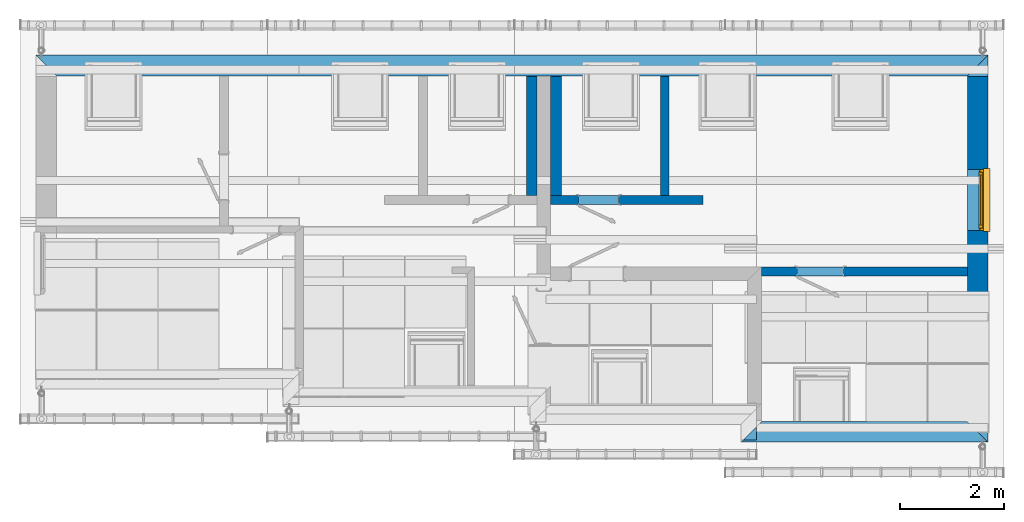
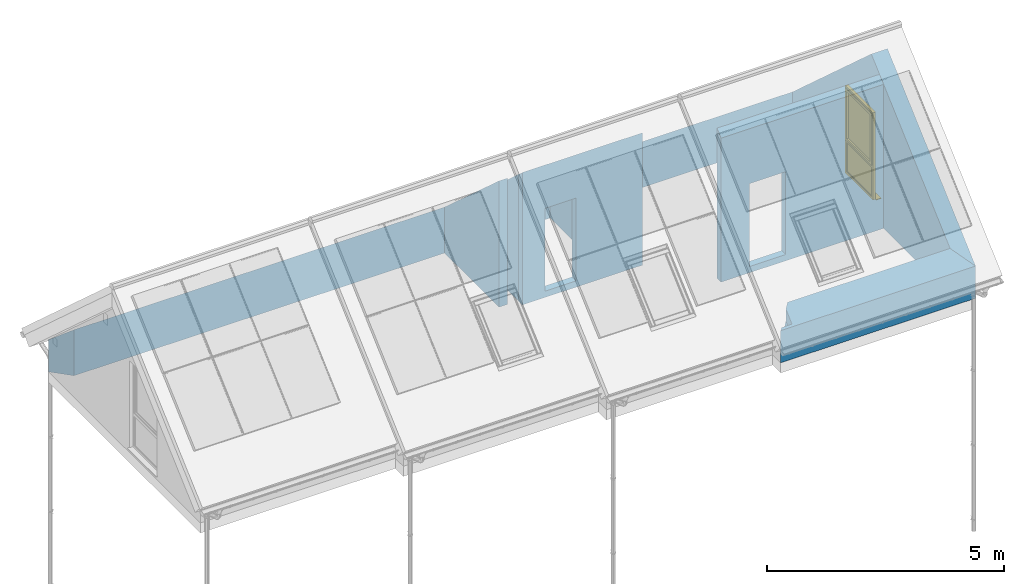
# One storey, part 12 of 43: 8 walls, 1 window, 3 openings.
"""IFC2X3 building model written with IfcOpenShell, lengths in millimetres."""

from ifc_helpers import new_model, si_unit, frame, origin_with_axes, place, context, project, spatial, faceted_brep, material, layer, layer_set, layer_usage, type_object, element, fill, save


model = new_model("IFC2X3")

# Units and contexts
model_context = context("Model", 3, world=origin_with_axes())
ifc_project = project(units=[si_unit("LENGTHUNIT", "METRE", prefix="MILLI")], contexts=[model_context])

# Site, building, storey
site_placement = place(None, origin_with_axes())
site = spatial("IfcSite", under=ifc_project, at=site_placement, Name="Site", CompositionType="ELEMENT")
building_placement = place(site_placement, origin_with_axes())
building = spatial("IfcBuilding", under=site, at=building_placement, Name="?", CompositionType="ELEMENT")
storey_placement = place(building_placement, frame((0.0, 0.0, 5938.0), z_axis=(0.0, 0.0, 1.0), x_axis=(1.0, 0.0, 0.0)))
storey = spatial("IfcBuildingStorey", under=building, at=storey_placement, Name="Dachgeschoß", CompositionType="ELEMENT", Elevation=5938.0)

# Wall
ifc_material_1 = material(Name="Material_AW")
ifc_layer_1 = layer(ifc_material_1, 395.0, ventilated=False)
ifc_layer_set_1 = layer_set([ifc_layer_1], Name="MaterialLayerSet_AW")
ifc_layer_usage_1 = layer_usage(ifc_layer_set_1, "AXIS2", "NEGATIVE", 197.5)
wall_1_placement = place(storey_placement, frame((197.5, -197.5, 0.0), z_axis=(0.0, 0.0, 1.0), x_axis=(1.0, 0.0, 0.0)))
element("IfcWall", 1, at=wall_1_placement, inside=storey, material=ifc_layer_usage_1, Name="AW-21", context=model_context, shape_type="Brep", body=[
    faceted_brep([(17707.5008600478, -197.5, 0.0), (17707.5008600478, -197.5, 1185.20998989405), (13052.5, -197.5, 1185.20998989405), (9002.5, -197.5, 1185.20998989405), (4252.5, -197.5, 1185.20998989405), (197.5, -197.5, 1185.20998989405), (197.5, -197.5, 0.0), (18102.5001275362, 197.500000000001, 0.0), (18102.5001275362, 197.500000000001, 829.550315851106), (17707.5008600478, -197.5, 1185.20998989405), (17707.5008600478, -197.5, 0.0), (-197.500233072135, 197.5, 0.0), (-197.500233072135, 197.5, 829.550315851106), (4252.5, 197.5, 829.550315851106), (9002.5, 197.5, 829.550315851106), (13052.5, 197.5, 829.550315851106), (18102.5001275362, 197.5, 829.550315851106), (18102.5001275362, 197.5, 0.0), (197.5, -197.5, 0.0), (197.5, -197.5, 1185.20998989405), (-197.500233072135, 197.5, 829.550315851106), (-197.500233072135, 197.5, 0.0), (197.5, -197.5, 0.0), (-197.500233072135, 197.5, 0.0), (18102.5001275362, 197.5, 0.0), (17707.5008600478, -197.5, 0.0), (13052.5, -197.5, 1185.20998989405), (17707.5008600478, -197.5, 1185.20998989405), (18102.5001275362, 197.5, 829.550315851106), (13052.5, 197.5, 829.550315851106), (9002.5, -197.5, 1185.20998989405), (13052.5, -197.5, 1185.20998989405), (13052.5, 197.5, 829.550315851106), (9002.5, 197.5, 829.550315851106), (4252.5, -197.5, 1185.20998989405), (9002.5, -197.5, 1185.20998989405), (9002.5, 197.5, 829.550315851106), (4252.5, 197.5, 829.550315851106), (-197.500233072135, 197.5, 829.550315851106), (197.5, -197.5, 1185.20998989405), (4252.5, -197.5, 1185.20998989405), (4252.5, 197.5, 829.550315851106)], [[[0, 1, 2, 3, 4, 5, 6]], [[7, 8, 9, 10]], [[11, 12, 13, 14, 15, 16, 17]], [[18, 19, 20, 21]], [[22, 23, 24, 25]], [[26, 27, 28, 29]], [[30, 31, 32, 33]], [[34, 35, 36, 37]], [[38, 39, 40, 41]]]),
])

# Wall, opening, window
wall_2_placement = place(storey_placement, frame((18102.5, -197.5, 0.0), z_axis=(0.0, 0.0, 1.0), x_axis=(0.0, -1.0, 0.0)))
wall_2 = element("IfcWall", 2, at=wall_2_placement, inside=storey, material=ifc_layer_usage_1, Name="AW-22", context=model_context, shape_type="Brep", body=[
    faceted_brep([(6847.49912937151, -197.5, 0.0), (6847.49912937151, -197.5, 1185.21045300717), (3522.50002352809, -197.5, 4179.05373953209), (197.5, -197.5, 1185.21013352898), (197.5, -197.5, 0.0), (7242.50009495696, 197.5, 0.0), (7242.50009495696, 197.5, 829.550151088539), (6847.49912937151, -197.5, 1185.21045300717), (6847.49912937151, -197.5, 0.0), (-197.500732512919, 197.5, 0.0), (-197.500732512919, 197.5, 829.549843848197), (3522.50016670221, 197.5, 4179.05385215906), (7242.50009495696, 197.5, 829.550151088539), (7242.50009495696, 197.5, 0.0), (197.5, -197.5, 0.0), (197.5, -197.5, 1185.21013352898), (-197.500732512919, 197.5, 829.549843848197), (-197.500732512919, 197.5, 0.0), (197.5, -197.5, 0.0), (-197.500732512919, 197.5, 0.0), (7242.50009495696, 197.5, 0.0), (6847.49912937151, -197.5, 0.0), (3522.50016670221, 197.5, 4179.05385215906), (-197.50073251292, 197.5, 829.549843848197), (197.5, -197.5, 1185.21013352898), (3522.50002352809, -197.5, 4179.05373953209), (3522.50002352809, -197.5, 4179.05373953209), (6847.49912937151, -197.5, 1185.21045300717), (7242.50009495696, 197.5, 829.550151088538), (3522.50016670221, 197.5, 4179.05385215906)], [[[0, 1, 2, 3, 4]], [[5, 6, 7, 8]], [[9, 10, 11, 12, 13]], [[14, 15, 16, 17]], [[18, 19, 20, 21]], [[22, 23, 24, 25]], [[26, 27, 28, 29]]]),
])
opening_1_placement = place(wall_2_placement, frame((2002.5, 0.0, 116.0), z_axis=(0.0, 0.0, 1.0), x_axis=(1.0, 0.0, 0.0)))
opening_1 = element("IfcOpeningElement", 3, at=opening_1_placement, cuts=wall_2, Name="AW-22|FE20", context=model_context, shape_type="Brep", body=[
    faceted_brep([(0.0, 207.5, 0.0), (0.0, 207.5, 2244.0), (1170.0, 207.5, 2244.0), (1170.0, 207.5, 0.0), (0.0, -207.5, 0.0), (0.0, -207.5, 2244.0), (0.0, 207.5, 2244.0), (0.0, 207.5, 0.0), (1170.0, -207.5, 0.0), (0.0, -207.5, 0.0), (0.0, 207.5, 0.0), (1170.0, 207.5, 0.0), (1170.0, -207.5, 2244.0), (1170.0, -207.5, 0.0), (1170.0, 207.5, 0.0), (1170.0, 207.5, 2244.0), (0.0, -207.5, 2244.0), (1170.0, -207.5, 2244.0), (1170.0, 207.5, 2244.0), (0.0, 207.5, 2244.0), (0.0, -207.5, 0.0), (1170.0, -207.5, 0.0), (1170.0, -207.5, 2244.0), (0.0, -207.5, 2244.0)], [[[0, 1, 2, 3]], [[4, 5, 6, 7]], [[8, 9, 10, 11]], [[12, 13, 14, 15]], [[16, 17, 18, 19]], [[20, 21, 22, 23]]]),
])
window_style = type_object("IfcWindowStyle", Name="FE20", ConstructionType="NOTDEFINED", OperationType="DOUBLE_PANEL_HORIZONTAL", ParameterTakesPrecedence=True, Sizeable=False)
window_placement = place(opening_1_placement, frame((1170.0, 77.5, 0.0), z_axis=(0.0, 0.0, 1.0), x_axis=(-1.0, 0.0, 0.0)))
window = element("IfcWindow", 4, at=window_placement, inside=storey, type_object=window_style, Name="FE20", OverallHeight=2244.0, OverallWidth=1170.0, context=model_context, shape_type="Brep", body=[
    faceted_brep([(0.0, -36.0, 0.0), (1170.0, -36.0, 0.0), (1155.0, -36.0, 15.0), (15.0, -36.0, 15.0), (14.999755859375, 36.0, 15.0), (1154.99975585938, 36.0, 15.0), (1169.99975585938, 36.0, 0.0), (-0.000244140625, 36.0, 0.0), (0.0, 36.0, 0.0), (1170.0, 36.0, 0.0), (1170.0, -36.0, 0.0), (0.0, -36.0, 0.0), (1170.0, -36.0, 0.0), (1170.0, -36.0, 2244.0), (1155.0, -36.0, 2229.0), (1155.0, -36.0, 15.0), (1155.0, 36.0, 15.0), (1155.0, 36.0, 2229.0), (1170.0, 36.0, 2244.0), (1170.0, 36.0, 0.0), (1170.0, 36.0, 0.0), (1170.0, 36.0, 2244.0), (1170.0, -36.0, 2244.0), (1170.0, -36.0, 0.0), (1170.0, -36.0, 2244.0), (0.0, -36.0, 2244.0), (15.0, -36.0, 2229.0), (1155.0, -36.0, 2229.0), (1154.99951171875, 36.0, 2229.0), (14.99951171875, 36.0, 2229.0), (-0.00048828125, 36.0, 2244.0), (1169.99951171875, 36.0, 2244.0), (1170.0, 36.0, 2244.0), (0.0, 36.0, 2244.0), (0.0, -36.0, 2244.0), (1170.0, -36.0, 2244.0), (0.0, -36.0, 2244.0), (0.0, -36.0, 0.0), (15.0, -36.0, 15.0), (15.0, -36.0, 2229.0), (15.0, 36.0, 2229.0), (15.0, 36.0, 15.0), (0.0, 36.0, 0.0), (0.0, 36.0, 2244.0), (0.0, 36.0, 2244.0), (0.0, 36.0, 0.0), (0.0, -36.0, 0.0), (0.0, -36.0, 2244.0), (1155.0, 36.0, 855.0), (1117.0, 36.0, 817.0), (53.0, 36.0, 817.0), (15.0, 36.0, 855.0), (43.0, 36.0, 883.0), (1127.0, 36.0, 883.0), (1127.0, 36.0, 883.0), (43.0, 36.0, 883.0), (43.0, -21.0, 883.0), (1127.0, -21.0, 883.0), (1127.0, -21.0, 883.0), (43.0, -21.0, 883.0), (60.0, -21.0, 900.0), (1110.0, -21.0, 900.0), (1110.0, -21.0, 900.0), (60.0, -21.0, 900.0), (60.0, -25.0, 900.0), (1110.0, -25.0, 900.0), (1110.0, -24.9999999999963, 900.000000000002), (59.9999999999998, -24.9999999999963, 900.000000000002), (52.9999999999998, -36.001952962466, 892.999023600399), (1117.0, -36.001952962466, 892.999023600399), (1117.0, -36.0, 893.0), (53.0, -36.0, 893.0), (15.0, -36.0, 855.0), (53.0, -36.0, 817.0), (1117.0, -36.0, 817.0), (1155.0, -36.0, 855.0), (52.999755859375, 36.0, 817.000000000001), (1116.99975585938, 36.0, 817.000000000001), (1109.99975585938, 24.998047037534, 809.9990236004), (59.999755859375, 24.998047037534, 809.9990236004), (60.0, 25.0, 810.0), (1110.0, 25.0, 810.0), (1110.0, 12.0, 810.0), (60.0, 12.0, 810.0), (60.0, -12.0, 810.0), (1110.0, -12.0, 810.0), (1110.0, -25.0, 810.0), (60.0, -25.0, 810.0), (60.0, 12.0, 810.0), (1110.0, 12.0, 810.0), (1127.0, 12.0, 827.0), (43.0, 12.0, 827.0), (42.999755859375, 12.0, 827.0), (1126.99975585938, 12.0, 827.0), (1126.99975585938, -12.0, 827.0), (42.999755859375, -12.0, 827.0), (42.999755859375, -12.0, 827.0), (1126.99975585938, -12.0, 827.0), (1109.99975585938, -12.0, 810.0), (59.999755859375, -12.0, 810.0), (60.0, -24.9999999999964, 809.999999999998), (1110.0, -24.9999999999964, 809.999999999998), (1117.0, -36.0019529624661, 817.000976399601), (53.0, -36.0019529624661, 817.000976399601), (1155.0, 36.0, 2229.0), (1155.0, 36.0, 855.0), (1127.0, 36.0, 883.0), (1127.0, 36.0, 2201.0), (1127.0, 36.0, 2201.0), (1127.0, 36.0, 883.0), (1127.0, -21.0, 883.0), (1127.0, -21.0, 2201.0), (1127.0, -21.0, 2201.0), (1127.0, -21.0, 883.0), (1110.0, -21.0, 900.0), (1110.0, -21.0, 2184.0), (1110.0, -21.0, 2184.0), (1110.0, -21.0, 900.0), (1110.0, -25.0, 900.0), (1110.0, -25.0, 2184.0), (1110.0, -25.0, 2184.0), (1110.0, -25.0, 900.0), (1117.00122087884, -36.0019531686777, 893.0), (1117.00122087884, -36.0019531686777, 2191.0), (1117.0, -36.0, 2191.0), (1117.0, -36.0, 893.0), (1155.0, -36.0, 855.0), (1155.0, -36.0, 2229.0), (15.0, 36.0, 2229.0), (1155.0, 36.0, 2229.0), (1127.0, 36.0, 2201.0), (43.0, 36.0, 2201.0), (42.999755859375, 36.0, 2201.0), (1126.99975585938, 36.0, 2201.0), (1126.99975585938, -21.0, 2201.0), (42.999755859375, -21.0, 2201.0), (42.999755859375, -21.0, 2201.0), (1126.99975585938, -21.0, 2201.0), (1109.99975585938, -21.0, 2184.0), (59.999755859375, -21.0, 2184.0), (60.0, -21.0, 2184.0), (1110.0, -21.0, 2184.0), (1110.0, -25.0, 2184.0), (60.0, -25.0, 2184.0), (60.0, -25.0, 2184.0), (1110.0, -25.0, 2184.0), (1117.0, -36.0019529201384, 2191.0000000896), (53.0, -36.0019529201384, 2191.0000000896), (52.999755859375, -36.0, 2191.0), (1116.99975585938, -36.0, 2191.0), (1154.99975585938, -36.0, 2229.0), (14.999755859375, -36.0, 2229.0), (15.0, 36.0, 855.0), (15.0, 36.0, 2229.0), (43.0, 36.0, 2201.0), (43.0, 36.0, 883.0), (43.0, 36.0, 883.0), (43.0, 36.0, 2201.0), (43.0, -21.0, 2201.0), (43.0, -21.0, 883.0), (43.0, -21.0, 883.0), (43.0, -21.0, 2201.0), (60.0, -21.0, 2184.0), (60.0, -21.0, 900.0), (60.0, -21.0, 899.99951171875), (60.0, -21.0, 2184.0), (60.0, -25.0, 2184.0), (60.0, -25.0, 899.99951171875), (60.0, -25.0, 899.999511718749), (60.0, -25.0, 2184.0), (52.9990236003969, -36.0019529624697, 2191.0), (52.9990236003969, -36.0019529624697, 892.999511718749), (53.0, -36.0, 892.99951171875), (53.0, -36.0, 2191.0), (15.0, -36.0, 2229.0), (15.0, -36.0, 854.99951171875), (1155.0, 36.0, 15.0), (15.0, 36.0, 15.0), (53.0, 36.0, 53.0), (1117.0, 36.0, 53.0), (1117.0, 36.0, 53.0), (53.0, 36.0, 53.0), (60.0, 24.9980470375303, 60.0009763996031), (1110.0, 24.9980470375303, 60.0009763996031), (1110.0, 25.0, 60.0), (60.0, 25.0, 60.0), (60.0, 12.0, 60.0), (1110.0, 12.0, 60.0), (1110.0, -12.0, 60.0), (60.0, -12.0, 60.0), (60.0, -25.0, 60.0), (1110.0, -25.0, 60.0), (1110.0, 12.0, 60.0), (60.0, 12.0, 60.0), (43.0, 12.0, 43.0), (1127.0, 12.0, 43.0), (1127.0, 12.0, 43.0), (43.0, 12.0, 43.0), (43.0, -12.0, 43.0), (1127.0, -12.0, 43.0), (1127.0, -12.0, 43.0), (43.0, -12.0, 43.0), (60.0, -12.0, 60.0), (1110.0, -12.0, 60.0), (1110.0, -25.0, 60.0), (60.0, -25.0, 60.0), (53.0, -36.0019529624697, 52.9990236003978), (1117.0, -36.0019529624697, 52.9990236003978), (1117.0, -36.0, 53.0), (53.0, -36.0, 53.0), (15.0, -36.0, 15.0), (1155.0, -36.0, 15.0), (1155.0, 36.0, 855.0), (1155.0, 36.0, 15.0), (1117.0, 36.0, 53.0), (1117.0, 36.0, 817.0), (1117.0, 36.0, 817.0), (1117.0, 36.0, 53.0), (1109.99853482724, 25.0000001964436, 60.0), (1109.99853482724, 25.0000001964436, 810.0), (1110.0, 25.0, 810.0), (1110.0, 25.0, 60.0), (1110.0, 12.0, 60.0), (1110.0, 12.0, 810.0), (1110.0, -12.0, 810.0), (1110.0, -12.0, 60.0), (1110.0, -25.0, 60.0), (1110.0, -25.0, 810.0), (1110.0, 12.0, 810.0), (1110.0, 12.0, 60.0), (1127.0, 12.0, 43.0), (1127.0, 12.0, 827.0), (1127.0, 12.0, 827.0), (1127.0, 12.0, 43.0), (1127.0, -12.0, 43.0), (1127.0, -12.0, 827.0), (1127.0, -12.0, 827.0), (1127.0, -12.0, 43.0), (1110.0, -12.0, 60.0), (1110.0, -12.0, 810.0), (1110.0, -25.0, 810.0), (1110.0, -25.0, 60.0), (1117.00146517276, -35.9999998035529, 53.0), (1117.00146517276, -35.9999998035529, 817.0), (1117.0, -36.0, 817.0), (1117.0, -36.0, 53.0), (1155.0, -36.0, 15.0), (1155.0, -36.0, 855.0), (15.0, 36.0, 15.0), (15.0, 36.0, 855.0), (53.0, 36.0, 817.0), (53.0, 36.0, 53.0), (53.0, 36.0, 53.0), (53.0, 36.0, 817.0), (60.0014651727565, 25.0000001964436, 810.0), (60.0014651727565, 25.0000001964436, 60.0), (60.0, 25.0, 60.0), (60.0, 25.0, 810.0), (60.0, 12.0, 810.0), (60.0, 12.0, 60.0), (60.0, -12.0, 60.0), (60.0, -12.0, 810.0), (60.0, -25.0, 810.0), (60.0, -25.0, 60.0), (60.0, 12.0, 60.0), (60.0, 12.0, 810.0), (43.0, 12.0, 827.0), (43.0, 12.0, 43.0), (43.0, 12.0, 43.00048828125), (43.0, 12.0, 827.00048828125), (43.0, -12.0, 827.00048828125), (43.0, -12.0, 43.00048828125), (43.0, -12.0, 43.00048828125), (43.0, -12.0, 827.00048828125), (60.0, -12.0, 810.00048828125), (60.0, -12.0, 60.00048828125), (60.0, -25.0, 60.0), (60.0, -25.0, 810.0), (52.9985348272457, -35.9999998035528, 817.0), (52.9985348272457, -35.9999998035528, 53.0), (53.0, -36.0, 53.0), (53.0, -36.0, 817.0), (15.0, -36.0, 855.0), (15.0, -36.0, 15.0), (1137.0, 52.0, 873.0), (33.0, 52.0, 873.0), (96.0, 52.0, 936.0), (1074.0, 52.0, 936.0), (1074.00024414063, 52.0, 936.0), (96.0002441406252, 52.0, 936.0), (110.000244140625, 19.9980470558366, 950.00048823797), (1060.00024414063, 19.9980470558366, 950.00048823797), (1060.0, 20.0, 950.0), (110.0, 20.0, 950.0), (103.0, 20.0, 943.0), (1067.0, 20.0, 943.0), (1066.99975585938, 20.0, 943.0), (102.999755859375, 20.0, 943.0), (102.999755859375, -4.0, 943.0), (1066.99975585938, -4.0, 943.0), (1066.99975585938, -4.0, 943.0), (102.999755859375, -4.0, 943.0), (109.999755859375, -4.0, 950.0), (1059.99975585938, -4.0, 950.0), (1060.0, -4.0, 949.999999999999), (110.0, -4.0, 949.999999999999), (102.0, -21.0019531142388, 941.999511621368), (1068.0, -21.0019531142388, 941.999511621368), (1068.0, -21.0, 942.0), (102.0, -21.0, 942.0), (51.0, -21.0, 891.0), (1119.0, -21.0, 891.0), (1119.00024414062, -21.0, 891.0), (51.000244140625, -21.0, 891.0), (51.000244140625, 36.0, 891.0), (1119.00024414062, 36.0, 891.0), (1119.00024414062, 36.0, 891.0), (51.000244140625, 36.0, 891.0), (33.000244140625, 36.0, 873.0), (1137.00024414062, 36.0, 873.0), (1137.0, 36.0, 873.0), (33.0, 36.0, 873.0), (33.0, 52.0, 873.0), (1137.0, 52.0, 873.0), (1137.0, 52.0, 2211.0), (1137.0, 52.0, 873.0), (1074.0, 52.0, 936.0), (1074.0, 52.0, 2148.0), (1074.0, 52.0, 2148.0), (1074.0, 52.0, 936.0), (1059.99975606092, 19.9980471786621, 950.0), (1059.99975606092, 19.9980471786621, 2134.0), (1060.0, 20.0, 2134.00048828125), (1060.0, 20.0, 950.00048828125), (1067.0, 20.0, 943.00048828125), (1067.0, 20.0, 2141.0), (1067.0, 20.0, 2141.0), (1067.0, 20.0, 943.0), (1067.0, -4.0, 943.0), (1067.0, -4.0, 2141.0), (1067.0, -4.0, 2141.0), (1067.0, -4.0, 943.0), (1060.0, -4.0, 950.0), (1060.0, -4.0, 2134.0), (1060.0, -4.0, 2134.00048828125), (1060.0, -4.0, 950.00048828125), (1068.00073255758, -21.0019530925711, 942.00048828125), (1068.00073255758, -21.0019530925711, 2142.0), (1068.0, -21.0, 2142.0), (1068.0, -21.0, 942.0), (1119.0000000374, -20.9980468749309, 891.0), (1119.0000000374, -20.9980468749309, 2193.0), (1119.0, -21.0, 2193.0), (1119.0, -21.0, 891.0), (1119.0, 36.0, 891.0), (1119.0, 36.0, 2193.0), (1119.0, 36.0, 2193.0), (1119.0, 36.0, 891.0), (1137.0, 36.0, 873.0), (1137.0, 36.0, 2211.0), (1137.0, 36.0, 2211.0), (1137.0, 36.0, 873.0), (1137.0, 52.0, 873.0), (1137.0, 52.0, 2211.0), (33.0, 52.0, 2211.0), (1137.0, 52.0, 2211.0), (1074.0, 52.0, 2148.0), (96.0, 52.0, 2148.0), (95.9997558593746, 52.0, 2148.0), (1073.99975585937, 52.0, 2148.0), (1059.99975585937, 19.998047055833, 2133.99951176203), (109.999755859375, 19.998047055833, 2133.99951176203), (109.999755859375, 20.0, 2134.0), (1059.99975585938, 20.0, 2134.0), (1066.99975585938, 20.0, 2141.0), (102.999755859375, 20.0, 2141.0), (102.999755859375, 20.0, 2141.0), (1066.99975585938, 20.0, 2141.0), (1066.99975585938, -4.0, 2141.0), (102.999755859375, -4.0, 2141.0), (102.999755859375, -4.0, 2141.0), (1066.99975585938, -4.0, 2141.0), (1059.99975585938, -4.0, 2134.0), (109.999755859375, -4.0, 2134.0), (109.999755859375, -4.0, 2134.0), (1059.99975585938, -4.0, 2134.0), (1067.99975585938, -21.0019530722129, 2142.00097673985), (101.999755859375, -21.0019530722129, 2142.00097673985), (102.0, -21.0, 2142.0), (1068.0, -21.0, 2142.0), (1119.0, -21.0, 2193.0), (51.0, -21.0, 2193.0), (50.999755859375, -21.0, 2193.0), (1118.99975585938, -21.0, 2193.0), (1118.99975585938, 36.0, 2193.0), (50.999755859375, 36.0, 2193.0), (50.999755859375, 36.0, 2193.0), (1118.99975585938, 36.0, 2193.0), (1136.99975585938, 36.0, 2211.0), (32.999755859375, 36.0, 2211.0), (33.0, 36.0, 2211.0), (1137.0, 36.0, 2211.0), (1137.0, 52.0, 2211.0), (33.0, 52.0, 2211.0), (33.0, 52.0, 872.99951171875), (33.0, 52.0, 2211.0), (96.0, 52.0, 2148.0), (96.0, 52.0, 935.99951171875), (96.0, 52.0, 936.0), (96.0, 52.0, 2148.0), (110.000243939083, 19.9980471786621, 2134.0), (110.000243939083, 19.9980471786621, 950.0), (110.0, 20.0, 949.99951171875), (110.0, 20.0, 2133.99951171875), (103.0, 20.0, 2141.0), (103.0, 20.0, 942.99951171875), (103.0, 20.0, 943.0), (103.0, 20.0, 2141.0), (103.0, -4.0, 2141.0), (103.0, -4.0, 943.0), (103.0, -4.0, 943.0), (103.0, -4.0, 2141.0), (110.0, -4.0, 2134.0), (110.0, -4.0, 950.0), (110.0, -4.00000000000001, 949.999511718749), (110.0, -4.00000000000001, 2133.99951171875), (101.999267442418, -21.0019530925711, 2142.0), (101.999267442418, -21.0019530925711, 941.999511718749), (102.0, -21.0, 942.0), (102.0, -21.0, 2142.0), (50.9999999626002, -20.9980468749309, 2193.0), (50.9999999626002, -20.9980468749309, 891.0), (51.0, -21.0, 891.0), (51.0, -21.0, 2193.0), (51.0, 36.0, 2193.0), (51.0, 36.0, 891.0), (51.0, 36.0, 891.0), (51.0, 36.0, 2193.0), (33.0, 36.0, 2211.0), (33.0, 36.0, 873.0), (33.0, 36.0, 872.99951171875), (33.0, 36.0, 2211.0), (33.0, 52.0, 2211.0), (33.0, 52.0, 872.99951171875), (110.0, 20.0, 950.0), (110.0, 20.0, 2134.0), (1060.0, 20.0, 2134.0), (1060.0, 20.0, 950.0), (110.0, -4.0, 950.0), (1060.0, -4.0, 950.0), (1060.0, -4.0, 2134.0), (110.0, -4.0, 2134.0), (60.0, 12.0, 60.0), (60.0, 12.0, 810.0), (1110.0, 12.0, 810.0), (1110.0, 12.0, 60.0), (60.0, -12.0, 60.0), (1110.0, -12.0, 60.0), (1110.0, -12.0, 810.0), (60.0, -12.0, 810.0), (-20.0, -36.0, 0.5), (-20.0, -160.0, 0.5), (1190.0, -160.0, 0.5), (1190.0, -36.0, 0.5), (-20.0, -36.0, -19.5), (-20.0, -36.0, 0.5), (1190.0, -36.0, 0.5), (1190.0, -36.0, -19.5), (-20.0, -160.0, -19.5), (-20.0, -36.0, -19.5), (1190.0, -36.0, -19.5), (1190.0, -160.0, -19.5), (-20.0, -160.0, 0.5), (-20.0, -160.0, -19.5), (1190.0, -160.0, -19.5), (1190.0, -160.0, 0.5), (-20.0, -160.0, -19.5), (-20.0, -160.0, 0.5), (-20.0, -36.0, 0.5), (-20.0, -36.0, -19.5), (1190.0, -160.0, 0.5), (1190.0, -160.0, -19.5), (1190.0, -36.0, -19.5), (1190.0, -36.0, 0.5)], [[[0, 1, 2, 3]], [[4, 5, 6, 7]], [[8, 9, 10, 11]], [[12, 13, 14, 15]], [[16, 17, 18, 19]], [[20, 21, 22, 23]], [[24, 25, 26, 27]], [[28, 29, 30, 31]], [[32, 33, 34, 35]], [[36, 37, 38, 39]], [[40, 41, 42, 43]], [[44, 45, 46, 47]], [[48, 49, 50, 51, 52, 53]], [[54, 55, 56, 57]], [[58, 59, 60, 61]], [[62, 63, 64, 65]], [[66, 67, 68, 69]], [[70, 71, 72, 73, 74, 75]], [[76, 77, 78, 79]], [[80, 81, 82, 83]], [[84, 85, 86, 87]], [[88, 89, 90, 91]], [[92, 93, 94, 95]], [[96, 97, 98, 99]], [[100, 101, 102, 103]], [[104, 105, 106, 107]], [[108, 109, 110, 111]], [[112, 113, 114, 115]], [[116, 117, 118, 119]], [[120, 121, 122, 123]], [[124, 125, 126, 127]], [[128, 129, 130, 131]], [[132, 133, 134, 135]], [[136, 137, 138, 139]], [[140, 141, 142, 143]], [[144, 145, 146, 147]], [[148, 149, 150, 151]], [[152, 153, 154, 155]], [[156, 157, 158, 159]], [[160, 161, 162, 163]], [[164, 165, 166, 167]], [[168, 169, 170, 171]], [[172, 173, 174, 175]], [[176, 177, 178, 179]], [[180, 181, 182, 183]], [[184, 185, 186, 187]], [[188, 189, 190, 191]], [[192, 193, 194, 195]], [[196, 197, 198, 199]], [[200, 201, 202, 203]], [[204, 205, 206, 207]], [[208, 209, 210, 211]], [[212, 213, 214, 215]], [[216, 217, 218, 219]], [[220, 221, 222, 223]], [[224, 225, 226, 227]], [[228, 229, 230, 231]], [[232, 233, 234, 235]], [[236, 237, 238, 239]], [[240, 241, 242, 243]], [[244, 245, 246, 247]], [[248, 249, 250, 251]], [[252, 253, 254, 255]], [[256, 257, 258, 259]], [[260, 261, 262, 263]], [[264, 265, 266, 267]], [[268, 269, 270, 271]], [[272, 273, 274, 275]], [[276, 277, 278, 279]], [[280, 281, 282, 283]], [[284, 285, 286, 287]], [[288, 289, 290, 291]], [[292, 293, 294, 295]], [[296, 297, 298, 299]], [[300, 301, 302, 303]], [[304, 305, 306, 307]], [[308, 309, 310, 311]], [[312, 313, 314, 315]], [[316, 317, 318, 319]], [[320, 321, 322, 323]], [[324, 325, 326, 327]], [[328, 329, 330, 331]], [[332, 333, 334, 335]], [[336, 337, 338, 339]], [[340, 341, 342, 343]], [[344, 345, 346, 347]], [[348, 349, 350, 351]], [[352, 353, 354, 355]], [[356, 357, 358, 359]], [[360, 361, 362, 363]], [[364, 365, 366, 367]], [[368, 369, 370, 371]], [[372, 373, 374, 375]], [[376, 377, 378, 379]], [[380, 381, 382, 383]], [[384, 385, 386, 387]], [[388, 389, 390, 391]], [[392, 393, 394, 395]], [[396, 397, 398, 399]], [[400, 401, 402, 403]], [[404, 405, 406, 407]], [[408, 409, 410, 411]], [[412, 413, 414, 415]], [[416, 417, 418, 419]], [[420, 421, 422, 423]], [[424, 425, 426, 427]], [[428, 429, 430, 431]], [[432, 433, 434, 435]], [[436, 437, 438, 439]], [[440, 441, 442, 443]], [[444, 445, 446, 447]], [[448, 449, 450, 451]], [[452, 453, 454, 455]], [[456, 457, 458, 459]], [[460, 461, 462, 463]], [[464, 465, 466, 467]], [[468, 469, 470, 471]], [[472, 473, 474, 475]], [[476, 477, 478, 479]], [[480, 481, 482, 483]]]),
])
fill(opening_1, window)

# Wall
wall_3_placement = place(storey_placement, frame((18102.5, -7242.5, 0.0), z_axis=(0.0, 0.0, 1.0), x_axis=(-1.0, 0.0, 0.0)))
element("IfcWall", 5, at=wall_3_placement, inside=storey, material=ifc_layer_usage_1, Name="AW-23", context=model_context, shape_type="Brep", body=[
    faceted_brep([(4157.49996012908, -197.5, 0.0), (4157.49996012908, -197.5, 1185.20940784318), (197.5, -197.5, 1185.20933677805), (197.5, -197.5, 0.0), (4552.49996012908, 197.5, 0.0), (4552.49996012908, 197.5, 829.55025422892), (4510.49996012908, 155.5, 867.367176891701), (4510.49996012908, 155.5, 559.428707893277), (4252.5, -102.499960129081, 791.732886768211), (4252.5, -102.49996012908, 1099.67109449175), (4157.49996012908, -197.5, 1185.20940784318), (4157.49996012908, -197.5, 0.0), (-197.499034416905, 197.5, 0.0), (-197.499034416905, 197.5, 829.550168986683), (4552.49996012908, 197.5, 829.55025422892), (4552.49996012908, 197.5, 0.0), (197.5, -197.5, 0.0), (197.5, -197.5, 1185.20933677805), (-197.499034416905, 197.5, 829.550168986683), (-197.499034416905, 197.5, 0.0), (197.5, -197.5, 0.0), (-197.499034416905, 197.5, 0.0), (4552.49996012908, 197.5, 0.0), (4157.49996012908, -197.5, 0.0), (4510.49996012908, 155.5, 867.367176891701), (4552.49996012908, 197.5, 829.55025422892), (-197.499034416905, 197.5, 829.550168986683), (197.5, -197.5, 1185.20933677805), (4157.49996012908, -197.5, 1185.20940784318), (4252.5, -102.49996012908, 1099.67109449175), (4252.5, 155.5, 867.367172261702), (4252.5, -102.499960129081, 791.732886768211), (4510.49996012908, 155.5, 559.428707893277), (4252.5, 155.5, 559.428707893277), (4252.5, 155.5, 559.428707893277), (4252.5, 155.5, 867.367172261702), (4252.5, -102.499960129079, 1099.67109449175), (4252.5, -102.499960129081, 791.732886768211), (4510.49996012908, 155.5, 559.428707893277), (4510.49996012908, 155.5, 867.367176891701), (4252.5, 155.5, 867.367172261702), (4252.5, 155.5, 559.428707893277)], [[[0, 1, 2, 3]], [[4, 5, 6, 7, 8, 9, 10, 11]], [[12, 13, 14, 15]], [[16, 17, 18, 19]], [[20, 21, 22, 23]], [[24, 25, 26, 27, 28, 29, 30]], [[31, 32, 33]], [[34, 35, 36, 37]], [[38, 39, 40, 41]]]),
])

# Wall, opening
ifc_material_2 = material(Name="Material_IW")
ifc_layer_2 = layer(ifc_material_2, 172.0, ventilated=False)
ifc_layer_set_2 = layer_set([ifc_layer_2], Name="MaterialLayerSet_IW")
ifc_layer_usage_2 = layer_usage(ifc_layer_set_2, "AXIS2", "NEGATIVE", 86.0)
wall_4_placement = place(storey_placement, frame((13945.0, -4155.0, 0.0), z_axis=(0.0, 0.0, 1.0), x_axis=(1.0, 0.0, 0.0)))
wall_4 = element("IfcWall", 6, at=wall_4_placement, inside=storey, material=ifc_layer_usage_2, Name="IW-41", context=model_context, shape_type="Brep", body=[
    faceted_brep([(3960.0, -86.0, 0.0), (3960.0, -86.0, 3709.94240511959), (0.0, -86.0, 3709.94240511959), (0.0, -86.0, 0.0), (3960.0, 86.0, 0.0), (3960.0, 86.0, 3864.81252601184), (3960.0, -86.0, 3709.94240511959), (3960.0, -86.0, 0.0), (0.0, 86.0, 0.0), (0.0, 86.0, 3864.81252601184), (3960.0, 86.0, 3864.81252601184), (3960.0, 86.0, 0.0), (0.0, -86.0, 0.0), (0.0, -86.0, 3709.94240511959), (0.0, 86.0, 3864.81252601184), (0.0, 86.0, 0.0), (0.0, -86.0, 0.0), (0.0, 86.0, 0.0), (3960.0, 86.0, 0.0), (3960.0, -86.0, 0.0), (0.0, -86.0, 3709.94240511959), (3960.0, -86.0, 3709.94240511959), (3960.0, 86.0, 3864.81252601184), (0.0, 86.0, 3864.81252601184)], [[[0, 1, 2, 3]], [[4, 5, 6, 7]], [[8, 9, 10, 11]], [[12, 13, 14, 15]], [[16, 17, 18, 19]], [[20, 21, 22, 23]]]),
])
opening_2_placement = place(wall_4_placement, frame((690.0, 0.0, 160.0), z_axis=(0.0, 0.0, 1.0), x_axis=(1.0, 0.0, 0.0)))
element("IfcOpeningElement", 7, at=opening_2_placement, cuts=wall_4, Name="IW-41|IT18", context=model_context, shape_type="Brep", body=[
    faceted_brep([(0.0, 96.0, 0.0), (0.0, 96.0, 2135.0), (885.0, 96.0, 2135.0), (885.0, 96.0, 0.0), (0.0, -96.0, 0.0), (0.0, -96.0, 2135.0), (0.0, 96.0, 2135.0), (0.0, 96.0, 0.0), (885.0, -96.0, 0.0), (0.0, -96.0, 0.0), (0.0, 96.0, 0.0), (885.0, 96.0, 0.0), (885.0, -96.0, 2135.0), (885.0, -96.0, 0.0), (885.0, 96.0, 0.0), (885.0, 96.0, 2135.0), (0.0, -96.0, 2135.0), (885.0, -96.0, 2135.0), (885.0, 96.0, 2135.0), (0.0, 96.0, 2135.0), (0.0, -96.0, 0.0), (885.0, -96.0, 0.0), (885.0, -96.0, 2135.0), (0.0, -96.0, 2135.0)], [[[0, 1, 2, 3]], [[4, 5, 6, 7]], [[8, 9, 10, 11]], [[12, 13, 14, 15]], [[16, 17, 18, 19]], [[20, 21, 22, 23]]]),
])

wall_5_placement = place(storey_placement, frame((9895.0, -2783.0, 0.0), z_axis=(0.0, 0.0, 1.0), x_axis=(1.0, 0.0, 0.0)))
wall_5 = element("IfcWall", 8, at=wall_5_placement, inside=storey, material=ifc_layer_usage_2, Name="IW-42", context=model_context, shape_type="Brep", body=[
    faceted_brep([(2928.0, -86.0, 0.0), (2928.0, -86.0, 3412.8095521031), (0.0, -86.0, 3412.8095521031), (0.0, -86.0, 0.0), (2928.0, 86.0, 0.0), (2928.0, 86.0, 3257.94040398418), (2928.0, -86.0, 3412.8095521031), (2928.0, -86.0, 0.0), (0.0, 86.0, 0.0), (0.0, 86.0, 3257.94040398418), (2928.0, 86.0, 3257.94040398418), (2928.0, 86.0, 0.0), (0.0, -86.0, 0.0), (0.0, -86.0, 3412.8095521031), (0.0, 86.0, 3257.94040398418), (0.0, 86.0, 0.0), (0.0, -86.0, 0.0), (0.0, 86.0, 0.0), (2928.0, 86.0, 0.0), (2928.0, -86.0, 0.0), (0.0, -86.0, 3412.8095521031), (2928.0, -86.0, 3412.8095521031), (2928.0, 86.0000000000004, 3257.94040398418), (0.0, 86.0000000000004, 3257.94040398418)], [[[0, 1, 2, 3]], [[4, 5, 6, 7]], [[8, 9, 10, 11]], [[12, 13, 14, 15]], [[16, 17, 18, 19]], [[20, 21, 22, 23]]]),
])
opening_3_placement = place(wall_5_placement, frame((546.0, 0.0, 160.0), z_axis=(0.0, 0.0, 1.0), x_axis=(1.0, 0.0, 0.0)))
element("IfcOpeningElement", 9, at=opening_3_placement, cuts=wall_5, Name="IW-42|IT19", context=model_context, shape_type="Brep", body=[
    faceted_brep([(0.0, 96.0, 0.0), (0.0, 96.0, 2135.0), (760.0, 96.0, 2135.0), (760.0, 96.0, 0.0), (0.0, -96.0, 0.0), (0.0, -96.0, 2135.0), (0.0, 96.0, 2135.0), (0.0, 96.0, 0.0), (760.0, -96.0, 0.0), (0.0, -96.0, 0.0), (0.0, 96.0, 0.0), (760.0, 96.0, 0.0), (760.0, -96.0, 2135.0), (760.0, -96.0, 0.0), (760.0, 96.0, 0.0), (760.0, 96.0, 2135.0), (0.0, -96.0, 2135.0), (760.0, -96.0, 2135.0), (760.0, 96.0, 2135.0), (0.0, 96.0, 2135.0), (0.0, -96.0, 0.0), (760.0, -96.0, 0.0), (760.0, -96.0, 2135.0), (0.0, -96.0, 2135.0)], [[[0, 1, 2, 3]], [[4, 5, 6, 7]], [[8, 9, 10, 11]], [[12, 13, 14, 15]], [[16, 17, 18, 19]], [[20, 21, 22, 23]]]),
])

# Walls
ifc_layer_3 = layer(ifc_material_2, 206.0, ventilated=False)
ifc_layer_set_3 = layer_set([ifc_layer_3], Name="MaterialLayerSet_IW")
ifc_layer_usage_3 = layer_usage(ifc_layer_set_3, "AXIS2", "NEGATIVE", 103.0)
wall_6_placement = place(storey_placement, frame((9998.0, -2697.0, 0.0), z_axis=(0.0, 0.0, 1.0), x_axis=(0.0, 1.0, 0.0)))
element("IfcWall", 10, at=wall_6_placement, inside=storey, material=ifc_layer_usage_3, Name="IW-43", context=model_context, shape_type="Brep", body=[
    faceted_brep([(2302.0, -103.0, 0.0), (2302.0, -103.0, 1185.20988682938), (0.0, -103.0, 3257.94044289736), (0.0, -103.0, 0.0), (2302.0, 103.0, 0.0), (2302.0, 103.0, 1185.20988682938), (2302.0, -103.0, 1185.20988682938), (2302.0, -103.0, 0.0), (0.0, 103.0, 0.0), (0.0, 103.0, 3257.94044289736), (2302.0, 103.0, 1185.20988682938), (2302.0, 103.0, 0.0), (0.0, -103.0, 0.0), (0.0, -103.0, 3257.94044289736), (0.0, 103.0, 3257.94044289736), (0.0, 103.0, 0.0), (0.0, -103.0, 0.0), (0.0, 103.0, 0.0), (2302.0, 103.0, 0.0), (2302.0, -103.0, 0.0), (0.0, -103.0, 3257.94044289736), (2302.0, -103.0, 1185.20988682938), (2302.0, 103.0, 1185.20988682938), (0.0, 103.0, 3257.94044289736)], [[[0, 1, 2, 3]], [[4, 5, 6, 7]], [[8, 9, 10, 11]], [[12, 13, 14, 15]], [[16, 17, 18, 19]], [[20, 21, 22, 23]]]),
])
wall_7_placement = place(storey_placement, frame((12087.0, -395.0, 0.0), z_axis=(0.0, 0.0, 1.0), x_axis=(0.0, -1.0, 0.0)))
element("IfcWall", 11, at=wall_7_placement, inside=storey, material=ifc_layer_usage_2, Name="IW-44", context=model_context, shape_type="Brep", body=[
    faceted_brep([(2302.0, -86.0, 0.0), (2302.0, -86.0, 3257.94055999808), (0.0, -86.0, 1185.21000393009), (0.0, -86.0, 0.0), (2302.0, 86.0, 0.0), (2302.0, 86.0, 3257.94055999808), (2302.0, -86.0, 3257.94055999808), (2302.0, -86.0, 0.0), (0.0, 86.0, 0.0), (0.0, 86.0, 1185.21000393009), (2302.0, 86.0, 3257.94055999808), (2302.0, 86.0, 0.0), (0.0, -86.0, 0.0), (0.0, -86.0, 1185.21000393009), (0.0, 86.0, 1185.21000393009), (0.0, 86.0, 0.0), (0.0, -86.0, 0.0), (0.0, 86.0, 0.0), (2302.0, 86.0, 0.0), (2302.0, -86.0, 0.0), (0.0, -86.0, 1185.21000393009), (2302.0, -86.0, 3257.94055999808), (2302.0, 86.0, 3257.94055999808), (0.0, 86.0, 1185.21000393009)], [[[0, 1, 2, 3]], [[4, 5, 6, 7]], [[8, 9, 10, 11]], [[12, 13, 14, 15]], [[16, 17, 18, 19]], [[20, 21, 22, 23]]]),
])
wall_8_placement = place(storey_placement, frame((9528.0, -395.0, 0.0), z_axis=(0.0, 0.0, 1.0), x_axis=(0.0, -1.0, 0.0)))
element("IfcWall", 12, at=wall_8_placement, inside=storey, material=ifc_layer_usage_3, Name="IW-47", context=model_context, shape_type="Brep", body=[
    faceted_brep([(2302.0, -103.0, 0.0), (2302.0, -103.0, 3257.94055999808), (0.0, -103.0, 1185.21000393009), (0.0, -103.0, 0.0), (2302.0, 103.0, 0.0), (2302.0, 103.0, 3257.94055999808), (2302.0, -103.0, 3257.94055999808), (2302.0, -103.0, 0.0), (0.0, 103.0, 0.0), (0.0, 103.0, 1185.21000393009), (2302.0, 103.0, 3257.94055999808), (2302.0, 103.0, 0.0), (0.0, -103.0, 0.0), (0.0, -103.0, 1185.21000393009), (0.0, 103.0, 1185.21000393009), (0.0, 103.0, 0.0), (0.0, -103.0, 0.0), (0.0, 103.0, 0.0), (2302.0, 103.0, 0.0), (2302.0, -103.0, 0.0), (0.0, -103.0, 1185.21000393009), (2302.0, -103.0, 3257.94055999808), (2302.0, 103.0, 3257.94055999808), (0.0, 103.0, 1185.21000393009)], [[[0, 1, 2, 3]], [[4, 5, 6, 7]], [[8, 9, 10, 11]], [[12, 13, 14, 15]], [[16, 17, 18, 19]], [[20, 21, 22, 23]]]),
])

save(model, "model.ifc")
